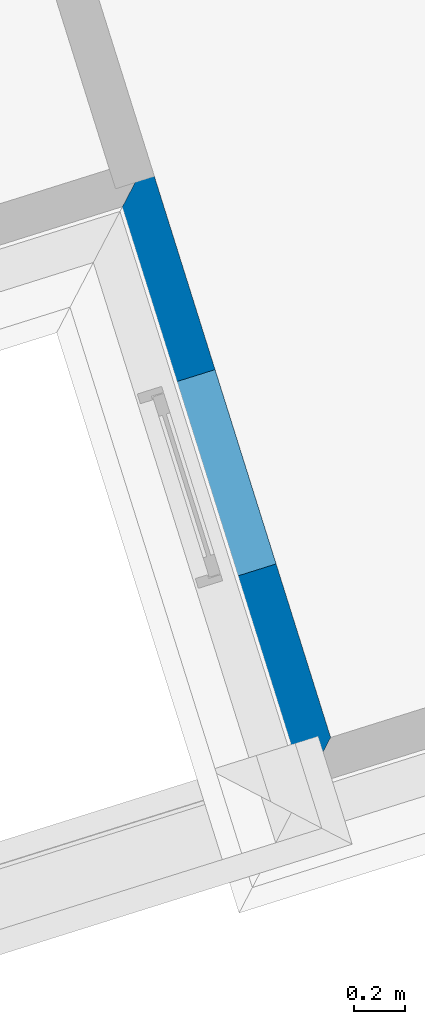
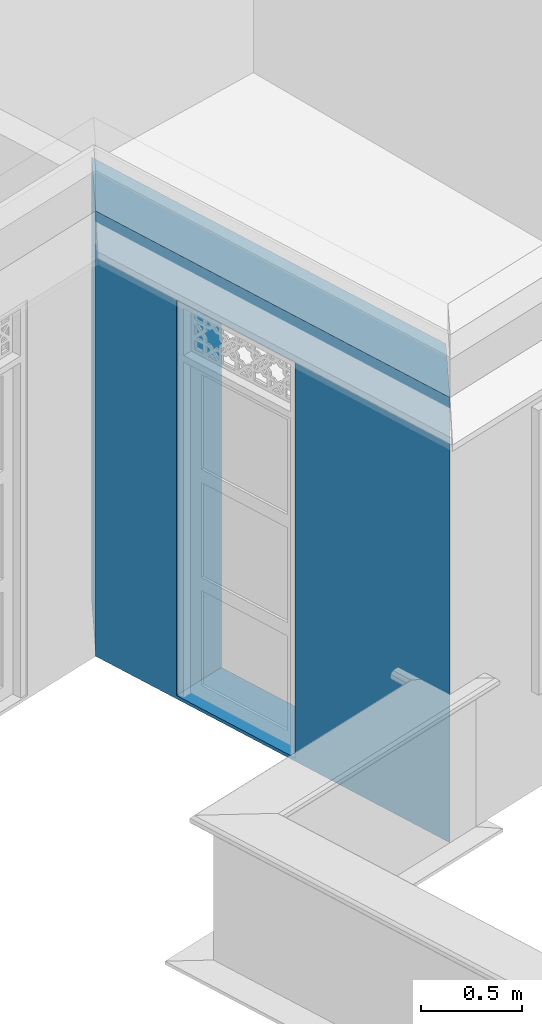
# One storey, part 9 of 13: 1 wall, 1 opening.
"""IFC4 building model written with IfcOpenShell, lengths in metres."""

from ifc_helpers import new_model, si_unit, frame, origin_with_axes, place, context, subcontext, project, spatial, polyline, outline, extrude, material, layer, layer_set, layer_usage, type_object, element, save


model = new_model("IFC4")

# Units and contexts
model_context = context("Model", 3, world=origin_with_axes())
body_context = subcontext(model_context, "Body", "Model", "MODEL_VIEW")
ifc_project = project(units=[si_unit("PLANEANGLEUNIT", "RADIAN"), si_unit("MASSUNIT", "GRAM", prefix="KILO"), si_unit("FORCEUNIT", "NEWTON", prefix="KILO"), si_unit("LENGTHUNIT", "METRE"), si_unit("AREAUNIT", "SQUARE_METRE"), si_unit("VOLUMEUNIT", "CUBIC_METRE")], contexts=[model_context, model_context])

# Site, building, storey
site_placement = place(None, origin_with_axes())
site = spatial("IfcSite", under=ifc_project, at=site_placement, Name="Site plot-0", CompositionType="ELEMENT")
building_placement = place(None, origin_with_axes())
building = spatial("IfcBuilding", under=site, at=building_placement, Name="Building plot-0", CompositionType="ELEMENT")
storey_placement = place(None, frame((0.0, 0.0, 3.6), z_axis=(0.0, 0.0, 1.0), x_axis=(1.0, 0.0, 0.0)))
storey = spatial("IfcBuildingStorey", under=building, at=storey_placement, Name="plot-0 1", CompositionType="ELEMENT", Elevation=3.6)

# Wall, opening
ifc_material = material(Name="Masonry")
ifc_layer = layer(ifc_material, 0.33, ventilated=False)
ifc_layer_set = layer_set([ifc_layer], Name="exterior_0.08_0.25")
ifc_layer_usage = layer_usage(ifc_layer_set, "AXIS2", "POSITIVE", -0.25)
wall_type = type_object("IfcWallType", Name="exterior_0.08_0.25", PredefinedType="SOLIDWALL", material=ifc_layer_set)
wall_placement = place(storey_placement, frame((4.10965354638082, 11.574039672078, 0.0), z_axis=(0.0, 0.0, 1.0), x_axis=(0.299724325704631, -0.954025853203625, 0.0)))
wall = element("IfcWall", 1, at=wall_placement, inside=storey, type_object=wall_type, material=ifc_layer_usage, Name="exterior", context=body_context, shape_type="SweptSolid", body=[
    extrude(outline(polyline([(-0.0800000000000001, 0.0799999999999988), (0.250000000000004, -0.25), (2.63923278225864, -0.25), (2.30923278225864, 0.079999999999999), (-0.0800000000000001, 0.0799999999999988)])), origin_with_axes(), (0.0, 0.0, 1.0), 2.7),
])
opening_placement = place(wall_placement, frame((0.79461639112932, 0.0, 0.02)))
element("IfcOpeningElement", 2, at=opening_placement, cuts=wall, Name="My Opening", ObjectType="Opening", context=body_context, shape_type="SweptSolid", body=[
    extrude(outline(polyline([(0.0, -0.27), (0.799999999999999, -0.27), (0.799999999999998, 1.1), (-4.44089209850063e-16, 1.1), (0.0, -0.27)])), origin_with_axes(), (0.0, 0.0, 1.0), 2.4),
])

save(model, "model.ifc")
